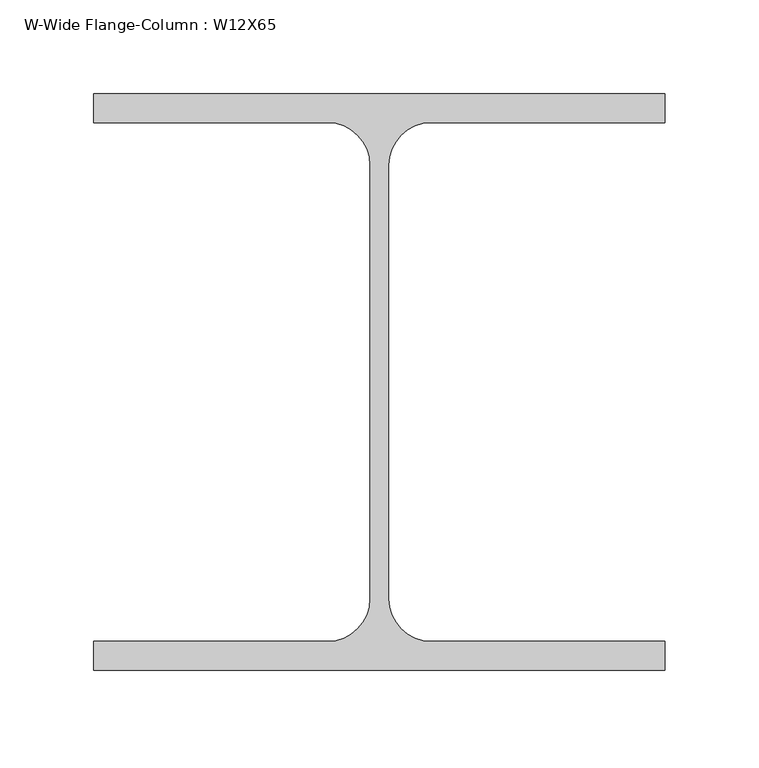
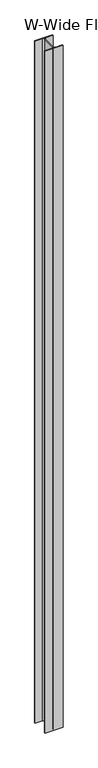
"""IFC4 building model written with IfcOpenShell, lengths in millimetres: column geometry, W-Wide Flange-Column : W12X65."""

from ifc_helpers import new_model, si_unit, point, frame, frame_2d, origin, place, context, project, spatial, polyline, circle_curve, trimmed, segment, composite_curve, outline, extrude, source, transform, mapped, element, save


def w_wide_flange_column_w12x65_dc519e1b(model_context):
    return source(origin(), model_context, "Body", "SweptSolid", [
        extrude(outline(composite_curve([segment(polyline([(152.4, 153.67), (152.4, 138.303), (27.686, 138.303)]), True, "CONTINUOUS"), segment(trimmed(circle_curve(frame_2d((27.686, 115.57)), 22.733), [point((27.686, 138.303))], [point((4.953, 115.57))], True, "CARTESIAN"), True, "CONTINUOUS"), segment(polyline([(4.953, 115.57), (4.953, -115.57)]), True, "CONTINUOUS"), segment(trimmed(circle_curve(frame_2d((27.686, -115.57)), 22.733), [point((4.953, -115.57))], [point((27.686, -138.303))], True, "CARTESIAN"), True, "CONTINUOUS"), segment(polyline([(27.686, -138.303), (152.4, -138.303), (152.4, -153.67), (-152.4, -153.67), (-152.4, -138.303), (-27.686, -138.303)]), True, "CONTINUOUS"), segment(trimmed(circle_curve(frame_2d((-27.686, -115.57)), 22.733), [point((-27.686, -138.303))], [point((-4.953, -115.57))], True, "CARTESIAN"), True, "CONTINUOUS"), segment(polyline([(-4.953, -115.57), (-4.953, 115.57)]), True, "CONTINUOUS"), segment(trimmed(circle_curve(frame_2d((-27.686, 115.57)), 22.733), [point((-4.953, 115.57))], [point((-27.686, 138.303))], True, "CARTESIAN"), True, "CONTINUOUS"), segment(polyline([(-27.686, 138.303), (-152.4, 138.303), (-152.4, 153.67), (152.4, 153.67)]), True, "CONTINUOUS")], self_intersect=False)), frame((0.0, 0.0, 4267.2), z_axis=(0.0, 0.0, 1.0), x_axis=(1.0, 0.0, 0.0)), (0.0, 0.0, 1.0), 12192.0),
    ])


if __name__ == "__main__":
    model = new_model("IFC4")
    model_context = context("Model", 3, world=origin())
    ifc_project = project(units=[si_unit("LENGTHUNIT", "METRE", prefix="MILLI")], contexts=[model_context])
    site = spatial("IfcSite", under=ifc_project)
    building = spatial("IfcBuilding", under=site)
    placement = place(None, origin())
    w_wide_flange_column_w12x65_shape = w_wide_flange_column_w12x65_dc519e1b(model_context)
    element("IfcColumn", 1, ObjectType="W-Wide Flange-Column : W12X65", at=placement, inside=building, context=model_context, shape_type="MappedRepresentation", body=[
        mapped(w_wide_flange_column_w12x65_shape, transform((0.0, 0.0, 0.0), x_axis=(1.0, 0.0, 0.0), y_axis=(0.0, 1.0, 0.0), z_axis=(0.0, 0.0, 1.0))),
    ])
    save(model, "model.ifc")
